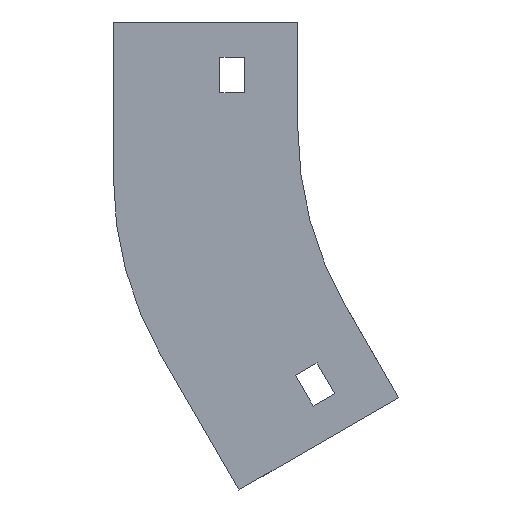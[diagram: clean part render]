
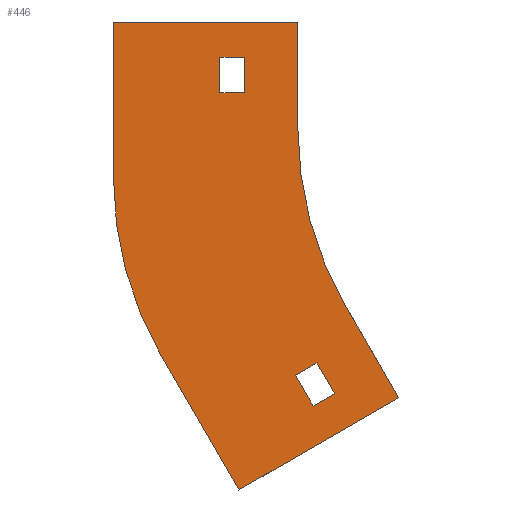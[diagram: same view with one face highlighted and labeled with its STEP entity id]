
A CAD part, left-side view. The second image highlights one B-rep face of the part: STEP entity #446.
In plain terms, the highlighted planar face has unit normal (-1, 0, 0).
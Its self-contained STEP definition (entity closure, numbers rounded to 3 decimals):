
#7 = VECTOR ( 'NONE', #734, 1000. ) ;
#21 = ORIENTED_EDGE ( 'NONE', *, *, #331, .F. ) ;
#53 = EDGE_CURVE ( 'NONE', #70, #242, #1167, .T. ) ;
#70 = VERTEX_POINT ( 'NONE', #529 ) ;
#90 = FACE_BOUND ( 'NONE', #417, .T. ) ;
#92 = CARTESIAN_POINT ( 'NONE',  ( -52., 22., -10. ) ) ;
#102 = VECTOR ( 'NONE', #835, 1000. ) ;
#118 = EDGE_CURVE ( 'NONE', #1076, #1055, #1139, .T. ) ;
#141 = CARTESIAN_POINT ( 'NONE',  ( -52., -13.397, -80. ) ) ;
#164 = LINE ( 'NONE', #807, #668 ) ;
#167 = DIRECTION ( 'NONE',  ( 0., 0., 1. ) ) ;
#168 = CARTESIAN_POINT ( 'NONE',  ( -52., -100., -30. ) ) ;
#171 = VERTEX_POINT ( 'NONE', #268 ) ;
#179 = EDGE_CURVE ( 'NONE', #681, #171, #1004, .T. ) ;
#186 = CARTESIAN_POINT ( 'NONE',  ( -52., 0., 0. ) ) ;
#190 = VECTOR ( 'NONE', #1209, 1000. ) ;
#211 = CARTESIAN_POINT ( 'NONE',  ( -52., 52., -43.933 ) ) ;
#232 = CARTESIAN_POINT ( 'NONE',  ( -52., -13.397, -80. ) ) ;
#241 = CARTESIAN_POINT ( 'NONE',  ( -52., 15., -10. ) ) ;
#242 = VERTEX_POINT ( 'NONE', #252 ) ;
#252 = CARTESIAN_POINT ( 'NONE',  ( -52., -5.407, -96.16 ) ) ;
#268 = CARTESIAN_POINT ( 'NONE',  ( -52., 38.603, -93.933 ) ) ;
#278 = VERTEX_POINT ( 'NONE', #241 ) ;
#284 = LINE ( 'NONE', #1149, #1120 ) ;
#289 = VECTOR ( 'NONE', #167, 1000. ) ;
#290 = EDGE_CURVE ( 'NONE', #171, #773, #570, .T. ) ;
#296 = EDGE_CURVE ( 'NONE', #1055, #939, #348, .T. ) ;
#310 = VECTOR ( 'NONE', #762, 1000. ) ;
#313 = CARTESIAN_POINT ( 'NONE',  ( -52., 22., -20. ) ) ;
#331 = EDGE_CURVE ( 'NONE', #242, #351, #890, .T. ) ;
#348 = LINE ( 'NONE', #232, #190 ) ;
#351 = VERTEX_POINT ( 'NONE', #1318 ) ;
#370 = ORIENTED_EDGE ( 'NONE', *, *, #731, .F. ) ;
#377 = CARTESIAN_POINT ( 'NONE',  ( -52., -4.345, -108.321 ) ) ;
#394 = CARTESIAN_POINT ( 'NONE',  ( -52., 52., -43.933 ) ) ;
#396 = EDGE_LOOP ( 'NONE', ( #1151, #1094, #1087, #1112, #804, #583, #526, #426 ) ) ;
#400 = LINE ( 'NONE', #637, #102 ) ;
#405 = FACE_OUTER_BOUND ( 'NONE', #396, .T. ) ;
#417 = EDGE_LOOP ( 'NONE', ( #1353, #370, #1282, #21 ) ) ;
#426 = ORIENTED_EDGE ( 'NONE', *, *, #1321, .F. ) ;
#436 = CARTESIAN_POINT ( 'NONE',  ( -52., 0.655, -99.66 ) ) ;
#439 = LINE ( 'NONE', #874, #817 ) ;
#441 = CARTESIAN_POINT ( 'NONE',  ( -52., -48., -43.933 ) ) ;
#445 = AXIS2_PLACEMENT_3D ( 'NONE', #1040, #496, #1068 ) ;
#446 = ADVANCED_FACE ( 'NONE', ( #1271, #405, #90 ), #642, .T. ) ;
#449 = LINE ( 'NONE', #1404, #310 ) ;
#454 = VECTOR ( 'NONE', #833, 1000. ) ;
#482 = VECTOR ( 'NONE', #732, 1000. ) ;
#496 = DIRECTION ( 'NONE',  ( -1., 0., 0. ) ) ;
#521 = EDGE_LOOP ( 'NONE', ( #738, #1147, #780, #560 ) ) ;
#525 = AXIS2_PLACEMENT_3D ( 'NONE', #168, #682, #1106 ) ;
#526 = ORIENTED_EDGE ( 'NONE', *, *, #118, .F. ) ;
#529 = CARTESIAN_POINT ( 'NONE',  ( -52., -10.407, -104.821 ) ) ;
#538 = EDGE_CURVE ( 'NONE', #702, #278, #613, .T. ) ;
#541 = DIRECTION ( 'NONE',  ( 0., 0., -1. ) ) ;
#550 = EDGE_CURVE ( 'NONE', #939, #681, #284, .T. ) ;
#560 = ORIENTED_EDGE ( 'NONE', *, *, #1061, .T. ) ;
#570 = CIRCLE ( 'NONE', #618, 100. ) ;
#583 = ORIENTED_EDGE ( 'NONE', *, *, #296, .F. ) ;
#597 = CARTESIAN_POINT ( 'NONE',  ( -52., 16.636, -131.981 ) ) ;
#598 = CARTESIAN_POINT ( 'NONE',  ( -52., 22., -20. ) ) ;
#599 = CARTESIAN_POINT ( 'NONE',  ( -52., 15., -10. ) ) ;
#607 = EDGE_CURVE ( 'NONE', #773, #957, #1367, .T. ) ;
#613 = LINE ( 'NONE', #1241, #7 ) ;
#618 = AXIS2_PLACEMENT_3D ( 'NONE', #441, #784, #972 ) ;
#622 = DIRECTION ( 'NONE',  ( 0., 0.5, 0.866 ) ) ;
#637 = CARTESIAN_POINT ( 'NONE',  ( -52., -4.345, -108.321 ) ) ;
#642 = PLANE ( 'NONE',  #445 ) ;
#650 = VERTEX_POINT ( 'NONE', #598 ) ;
#668 = VECTOR ( 'NONE', #1007, 1000. ) ;
#681 = VERTEX_POINT ( 'NONE', #1231 ) ;
#682 = DIRECTION ( 'NONE',  ( -1., 0., 0. ) ) ;
#702 = VERTEX_POINT ( 'NONE', #92 ) ;
#705 = DIRECTION ( 'NONE',  ( 0., 0.5, 0.866 ) ) ;
#708 = VERTEX_POINT ( 'NONE', #186 ) ;
#731 = EDGE_CURVE ( 'NONE', #1398, #70, #400, .T. ) ;
#732 = DIRECTION ( 'NONE',  ( 0., -1., 0. ) ) ;
#734 = DIRECTION ( 'NONE',  ( 0., -1., 0. ) ) ;
#738 = ORIENTED_EDGE ( 'NONE', *, *, #538, .T. ) ;
#762 = DIRECTION ( 'NONE',  ( 0., -0.5, -0.866 ) ) ;
#772 = EDGE_CURVE ( 'NONE', #957, #708, #852, .T. ) ;
#773 = VERTEX_POINT ( 'NONE', #211 ) ;
#780 = ORIENTED_EDGE ( 'NONE', *, *, #1121, .T. ) ;
#784 = DIRECTION ( 'NONE',  ( 1., 0., 0. ) ) ;
#785 = VERTEX_POINT ( 'NONE', #1187 ) ;
#789 = CARTESIAN_POINT ( 'NONE',  ( -52., -28.397, -105.981 ) ) ;
#800 = VECTOR ( 'NONE', #622, 1000. ) ;
#804 = ORIENTED_EDGE ( 'NONE', *, *, #550, .F. ) ;
#807 = CARTESIAN_POINT ( 'NONE',  ( -52., 22., -10. ) ) ;
#817 = VECTOR ( 'NONE', #541, 1000. ) ;
#831 = DIRECTION ( 'NONE',  ( 0., 0.866, -0.5 ) ) ;
#833 = DIRECTION ( 'NONE',  ( 0., 1., 0. ) ) ;
#835 = DIRECTION ( 'NONE',  ( 0., -0.866, 0.5 ) ) ;
#852 = LINE ( 'NONE', #1042, #482 ) ;
#874 = CARTESIAN_POINT ( 'NONE',  ( -52., 0., 0. ) ) ;
#890 = LINE ( 'NONE', #436, #1236 ) ;
#939 = VERTEX_POINT ( 'NONE', #789 ) ;
#954 = EDGE_CURVE ( 'NONE', #351, #1398, #449, .T. ) ;
#957 = VERTEX_POINT ( 'NONE', #1294 ) ;
#960 = LINE ( 'NONE', #313, #454 ) ;
#972 = DIRECTION ( 'NONE',  ( 0., 0., -1. ) ) ;
#1002 = DIRECTION ( 'NONE',  ( 0., 0.866, -0.5 ) ) ;
#1004 = LINE ( 'NONE', #597, #1067 ) ;
#1006 = DIRECTION ( 'NONE',  ( 0., 0., -1. ) ) ;
#1007 = DIRECTION ( 'NONE',  ( 0., 0., 1. ) ) ;
#1040 = CARTESIAN_POINT ( 'NONE',  ( -52., -100., -30. ) ) ;
#1042 = CARTESIAN_POINT ( 'NONE',  ( -52., 52., 0. ) ) ;
#1055 = VERTEX_POINT ( 'NONE', #141 ) ;
#1061 = EDGE_CURVE ( 'NONE', #650, #702, #164, .T. ) ;
#1067 = VECTOR ( 'NONE', #705, 1000. ) ;
#1068 = DIRECTION ( 'NONE',  ( 0., 0., 1. ) ) ;
#1076 = VERTEX_POINT ( 'NONE', #1235 ) ;
#1087 = ORIENTED_EDGE ( 'NONE', *, *, #290, .F. ) ;
#1094 = ORIENTED_EDGE ( 'NONE', *, *, #607, .F. ) ;
#1106 = DIRECTION ( 'NONE',  ( 0., 0., 1. ) ) ;
#1112 = ORIENTED_EDGE ( 'NONE', *, *, #179, .F. ) ;
#1120 = VECTOR ( 'NONE', #831, 1000. ) ;
#1121 = EDGE_CURVE ( 'NONE', #785, #650, #960, .T. ) ;
#1127 = LINE ( 'NONE', #599, #1309 ) ;
#1139 = CIRCLE ( 'NONE', #525, 100. ) ;
#1147 = ORIENTED_EDGE ( 'NONE', *, *, #1359, .T. ) ;
#1149 = CARTESIAN_POINT ( 'NONE',  ( -52., -28.397, -105.981 ) ) ;
#1151 = ORIENTED_EDGE ( 'NONE', *, *, #772, .F. ) ;
#1167 = LINE ( 'NONE', #1252, #800 ) ;
#1187 = CARTESIAN_POINT ( 'NONE',  ( -52., 15., -20. ) ) ;
#1209 = DIRECTION ( 'NONE',  ( 0., -0.5, -0.866 ) ) ;
#1231 = CARTESIAN_POINT ( 'NONE',  ( -52., 16.636, -131.981 ) ) ;
#1235 = CARTESIAN_POINT ( 'NONE',  ( -52., 0., -30. ) ) ;
#1236 = VECTOR ( 'NONE', #1002, 1000. ) ;
#1241 = CARTESIAN_POINT ( 'NONE',  ( -52., 22., -10. ) ) ;
#1252 = CARTESIAN_POINT ( 'NONE',  ( -52., -10.407, -104.821 ) ) ;
#1271 = FACE_BOUND ( 'NONE', #521, .T. ) ;
#1282 = ORIENTED_EDGE ( 'NONE', *, *, #954, .F. ) ;
#1294 = CARTESIAN_POINT ( 'NONE',  ( -52., 52., 0. ) ) ;
#1309 = VECTOR ( 'NONE', #1006, 1000. ) ;
#1318 = CARTESIAN_POINT ( 'NONE',  ( -52., 0.655, -99.66 ) ) ;
#1321 = EDGE_CURVE ( 'NONE', #708, #1076, #439, .T. ) ;
#1353 = ORIENTED_EDGE ( 'NONE', *, *, #53, .F. ) ;
#1359 = EDGE_CURVE ( 'NONE', #278, #785, #1127, .T. ) ;
#1367 = LINE ( 'NONE', #394, #289 ) ;
#1398 = VERTEX_POINT ( 'NONE', #377 ) ;
#1404 = CARTESIAN_POINT ( 'NONE',  ( -52., -4.345, -108.321 ) ) ;
